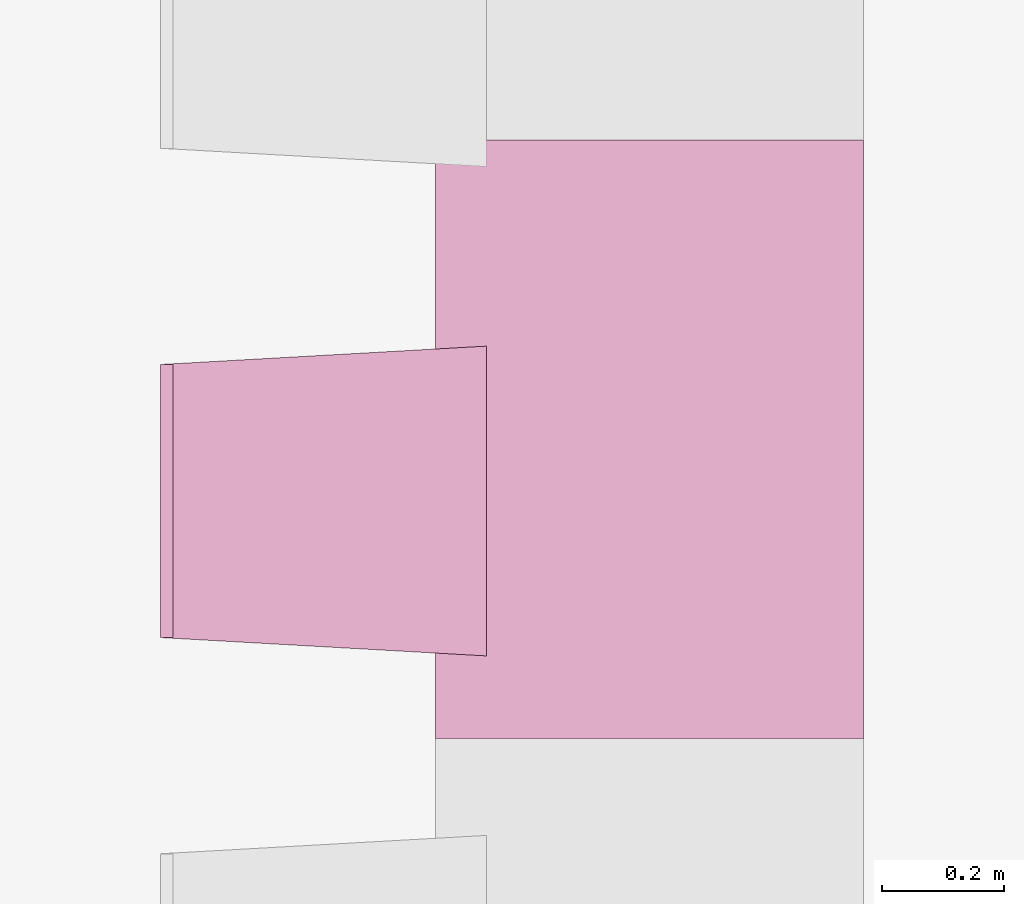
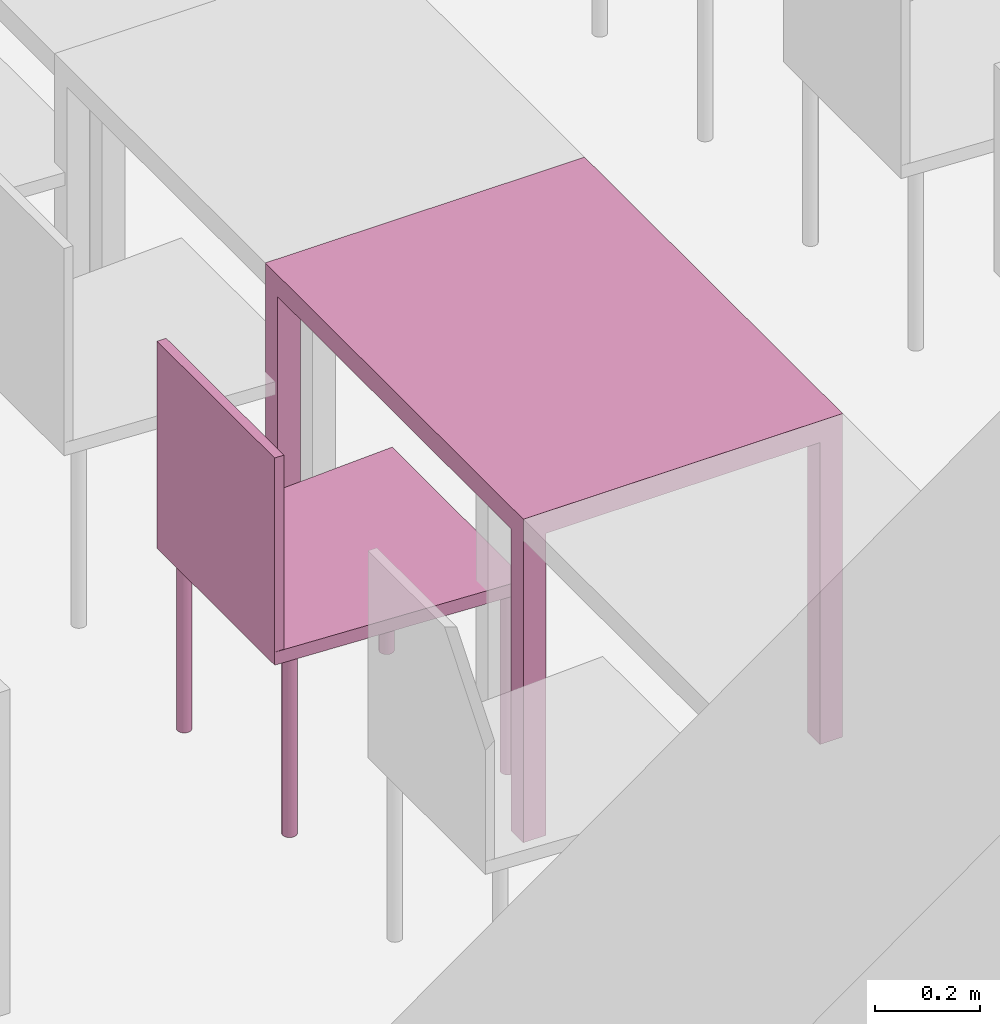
"""IFC4 building model written with IfcOpenShell, lengths in metres."""

from ifc_helpers import new_model, entity, si_unit, converted_unit, derived_unit, frame, origin, place, context, subcontext, project, spatial, faceted_brep, element, save


model = new_model("IFC4")

# Units and contexts
model_context = context("Model", 3, precision=1e-05, world=origin())
body_context = subcontext(model_context, "Body", "Model", "MODEL_VIEW")
ifc_project = project(units=[si_unit("LENGTHUNIT", "METRE"), si_unit("AREAUNIT", "SQUARE_METRE"), si_unit("VOLUMEUNIT", "CUBIC_METRE"), si_unit("MASSUNIT", "GRAM", prefix="KILO"), converted_unit("PLANEANGLEUNIT", "DEGREE", entity("IfcPlaneAngleMeasure", 0.0174532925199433), si_unit("PLANEANGLEUNIT", "RADIAN"), dimensions=[0, 0, 0, 0, 0, 0, 0]), derived_unit("THERMALTRANSMITTANCEUNIT", [(si_unit("POWERUNIT", "WATT"), 1), (si_unit("THERMODYNAMICTEMPERATUREUNIT", "KELVIN"), -1), (si_unit("LENGTHUNIT", "METRE"), -2)]), derived_unit("VOLUMETRICFLOWRATEUNIT", [(si_unit("LENGTHUNIT", "METRE"), 3), (converted_unit("TIMEUNIT", "hour", entity("IfcTimeMeasure", 3600.0), si_unit("TIMEUNIT", "SECOND"), dimensions=[0, 0, 1, 0, 0, 0, 0]), -1), (si_unit("LENGTHUNIT", "METRE"), -1)])], contexts=[model_context])

# Building, storeys
building_placement = place(None, origin())
building = spatial("IfcBuilding", under=ifc_project, at=building_placement, Name="HABITATGE PLURIFAMILIAR", CompositionType="ELEMENT")
storey_1_placement = place(building_placement, frame((0.0, 0.0, 3.35)))
storey_1 = spatial("IfcBuildingStorey", under=building, at=storey_1_placement, Name="PLANTA  ALTELL", CompositionType="ELEMENT", Elevation=3.35)
storey_2_placement = place(storey_1_placement, origin())
storey_2 = spatial("IfcBuildingStorey", under=storey_1, at=storey_2_placement, Name="NOU", CompositionType="PARTIAL")

# Furniture
furniture_1_placement = place(storey_2_placement, frame((412.336020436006, 14.0434480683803, 0.0)))
element("IfcFurniture", 1, at=furniture_1_placement, inside=storey_2, Name="Taula 80X70_PA", context=body_context, shape_type="Brep", body=[
    faceted_brep([(0.0, 0.0464285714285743, 0.0), (0.0, 0.0, 0.0), (0.0500000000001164, 0.0, 0.0), (0.0500000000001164, 0.0464285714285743, 0.0), (0.0500000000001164, 0.0464285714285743, 0.7), (0.0500000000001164, 0.0, 0.7), (0.0, 0.0, 0.7), (0.0, 0.0464285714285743, 0.7)], [[[0, 1, 2, 3]], [[4, 5, 6, 7]], [[3, 4, 7, 0]], [[2, 5, 4, 3]], [[1, 6, 5, 2]], [[0, 7, 6, 1]]], orient=[[False], [False], [False], [False], [False], [False]]),
    faceted_brep([(0.0, 0.98, 0.7), (0.0, 0.0, 0.7), (0.700069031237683, 0.0, 0.7), (0.700069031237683, 0.98, 0.7), (0.700069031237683, 0.98, 0.75), (0.700069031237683, 0.0, 0.75), (0.0, 0.0, 0.75), (0.0, 0.98, 0.75)], [[[0, 1, 2, 3]], [[4, 5, 6, 7]], [[3, 4, 7, 0]], [[2, 5, 4, 3]], [[1, 6, 5, 2]], [[0, 7, 6, 1]]], orient=[[False], [False], [False], [False], [False], [False]]),
    faceted_brep([(0.0, 0.980000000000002, 0.0), (0.0, 0.933571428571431, 0.0), (0.05, 0.933571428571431, 0.0), (0.05, 0.980000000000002, 0.0), (0.05, 0.980000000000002, 0.7), (0.05, 0.933571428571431, 0.7), (0.0, 0.933571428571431, 0.7), (0.0, 0.980000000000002, 0.7)], [[[0, 1, 2, 3]], [[4, 5, 6, 7]], [[3, 4, 7, 0]], [[2, 5, 4, 3]], [[1, 6, 5, 2]], [[0, 7, 6, 1]]], orient=[[False], [False], [False], [False], [False], [False]]),
    faceted_brep([(0.650069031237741, 0.98, 0.0), (0.650069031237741, 0.933571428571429, 0.0), (0.700069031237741, 0.933571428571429, 0.0), (0.700069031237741, 0.98, 0.0), (0.700069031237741, 0.98, 0.7), (0.700069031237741, 0.933571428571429, 0.7), (0.650069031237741, 0.933571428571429, 0.7), (0.650069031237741, 0.98, 0.7)], [[[0, 1, 2, 3]], [[4, 5, 6, 7]], [[3, 4, 7, 0]], [[2, 5, 4, 3]], [[1, 6, 5, 2]], [[0, 7, 6, 1]]], orient=[[False], [False], [False], [False], [False], [False]]),
    faceted_brep([(0.650069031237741, 0.0464285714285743, 0.0), (0.650069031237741, 0.0, 0.0), (0.700069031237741, 0.0, 0.0), (0.700069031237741, 0.0464285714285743, 0.0), (0.700069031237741, 0.0464285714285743, 0.7), (0.700069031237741, 0.0, 0.7), (0.650069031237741, 0.0, 0.7), (0.650069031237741, 0.0464285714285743, 0.7)], [[[0, 1, 2, 3]], [[4, 5, 6, 7]], [[3, 4, 7, 0]], [[2, 5, 4, 3]], [[1, 6, 5, 2]], [[0, 7, 6, 1]]], orient=[[False], [False], [False], [False], [False], [False]]),
])
furniture_2_placement = place(storey_2_placement, frame((411.886879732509, 14.1796818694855, 0.0499839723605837)))
element("IfcFurniture", 2, at=furniture_2_placement, inside=storey_2, Name="Cadira confident_PA", context=body_context, shape_type="Brep", body=[
    faceted_brep([(0.507575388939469, 0.0391636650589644, 0.0), (0.504980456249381, 0.0389479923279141, 0.0), (0.502462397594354, 0.0382849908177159, 0.0), (0.50009772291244, 0.0371948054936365, 0.0), (0.497958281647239, 0.0357105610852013, 0.0), (0.496109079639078, 0.0338773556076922, 0.0), (0.494606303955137, 0.0317508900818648, 0.0), (0.493495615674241, 0.0293957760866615, 0.0), (0.492810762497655, 0.0268835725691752, 0.0), (0.492572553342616, 0.0242906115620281, 0.0), (0.492788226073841, 0.0216956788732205, 0.0), (0.493451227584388, 0.019177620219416, 0.0), (0.494541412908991, 0.0168129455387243, 0.0), (0.496025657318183, 0.0146735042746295, 0.0), (0.497858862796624, 0.0128243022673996, 0.0), (0.499985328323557, 0.0113215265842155, 0.0), (0.502340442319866, 0.0102108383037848, 0.0), (0.504852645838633, 0.00952598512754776, 0.0), (0.507445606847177, 0.00928777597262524, 0.0), (0.510040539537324, 0.00950344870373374, 0.0), (0.512558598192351, 0.010166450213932, 0.0), (0.514923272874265, 0.0112566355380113, 0.0), (0.517062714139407, 0.0127408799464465, 0.0), (0.518911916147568, 0.0145740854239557, 0.0), (0.520414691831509, 0.0167005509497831, 0.0), (0.521525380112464, 0.0190556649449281, 0.0), (0.52221023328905, 0.0215678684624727, 0.0), (0.522448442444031, 0.024160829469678, 0.0), (0.522232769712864, 0.0267557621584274, 0.0), (0.521569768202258, 0.0292738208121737, 0.0), (0.520479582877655, 0.0316384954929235, 0.0), (0.518995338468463, 0.0337779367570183, 0.0), (0.517162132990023, 0.0356271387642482, 0.0), (0.515035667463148, 0.0371299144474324, 0.0), (0.51268055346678, 0.038240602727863, 0.0), (0.510168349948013, 0.0389254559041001, 0.0), (0.507575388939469, 0.0391636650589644, 0.448281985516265), (0.510168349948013, 0.0389254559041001, 0.448281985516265), (0.51268055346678, 0.038240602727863, 0.448281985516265), (0.515035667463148, 0.0371299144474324, 0.448281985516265), (0.517162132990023, 0.0356271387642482, 0.448281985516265), (0.518995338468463, 0.0337779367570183, 0.448281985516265), (0.520479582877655, 0.0316384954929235, 0.448281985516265), (0.521569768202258, 0.0292738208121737, 0.448281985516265), (0.522232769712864, 0.0267557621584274, 0.448281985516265), (0.522448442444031, 0.024160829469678, 0.448281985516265), (0.52221023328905, 0.0215678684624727, 0.448281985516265), (0.521525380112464, 0.0190556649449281, 0.448281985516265), (0.520414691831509, 0.0167005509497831, 0.448281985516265), (0.518911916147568, 0.0145740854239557, 0.448281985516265), (0.517062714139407, 0.0127408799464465, 0.448281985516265), (0.514923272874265, 0.0112566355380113, 0.448281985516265), (0.512558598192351, 0.010166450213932, 0.448281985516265), (0.510040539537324, 0.00950344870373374, 0.448281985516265), (0.507445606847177, 0.00928777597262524, 0.448281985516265), (0.504852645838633, 0.00952598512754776, 0.448281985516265), (0.502340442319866, 0.0102108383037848, 0.448281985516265), (0.499985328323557, 0.0113215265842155, 0.448281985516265), (0.497858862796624, 0.0128243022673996, 0.448281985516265), (0.496025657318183, 0.0146735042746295, 0.448281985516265), (0.494541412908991, 0.0168129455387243, 0.448281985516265), (0.493451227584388, 0.019177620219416, 0.448281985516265), (0.492788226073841, 0.0216956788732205, 0.448281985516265), (0.492572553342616, 0.0242906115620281, 0.448281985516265), (0.492810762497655, 0.0268835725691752, 0.448281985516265), (0.493495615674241, 0.0293957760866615, 0.448281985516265), (0.494606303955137, 0.0317508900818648, 0.448281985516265), (0.496109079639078, 0.0338773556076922, 0.448281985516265), (0.497958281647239, 0.0357105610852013, 0.448281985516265), (0.50009772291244, 0.0371948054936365, 0.448281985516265), (0.502462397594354, 0.0382849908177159, 0.448281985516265), (0.504980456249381, 0.0389479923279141, 0.448281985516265)], [[[0, 1, 2, 3, 4, 5, 6, 7, 8, 9, 10, 11, 12, 13, 14, 15, 16, 17, 18, 19, 20, 21, 22, 23, 24, 25, 26, 27, 28, 29, 30, 31, 32, 33, 34, 35]], [[36, 37, 38, 39, 40, 41, 42, 43, 44, 45, 46, 47, 48, 49, 50, 51, 52, 53, 54, 55, 56, 57, 58, 59, 60, 61, 62, 63, 64, 65, 66, 67, 68, 69, 70, 71]], [[1, 0, 36, 71]], [[2, 1, 71, 70]], [[3, 2, 70, 69]], [[4, 3, 69, 68]], [[5, 4, 68, 67]], [[6, 5, 67, 66]], [[7, 6, 66, 65]], [[8, 7, 65, 64]], [[9, 8, 64, 63]], [[10, 9, 63, 62]], [[11, 10, 62, 61]], [[12, 11, 61, 60]], [[13, 12, 60, 59]], [[14, 13, 59, 58]], [[15, 14, 58, 57]], [[16, 15, 57, 56]], [[17, 16, 56, 55]], [[18, 17, 55, 54]], [[19, 18, 54, 53]], [[20, 19, 53, 52]], [[21, 20, 52, 51]], [[22, 21, 51, 50]], [[23, 22, 50, 49]], [[24, 23, 49, 48]], [[25, 24, 48, 47]], [[26, 25, 47, 46]], [[27, 26, 46, 45]], [[28, 27, 45, 44]], [[29, 28, 44, 43]], [[30, 29, 43, 42]], [[31, 30, 42, 41]], [[32, 31, 41, 40]], [[33, 32, 40, 39]], [[34, 33, 39, 38]], [[35, 34, 38, 37]], [[0, 35, 37, 36]]], orient=[[False], [False], [False], [False], [False], [False], [False], [False], [False], [False], [False], [False], [False], [False], [False], [False], [False], [False], [False], [False], [False], [False], [False], [False], [False], [False], [False], [False], [False], [False], [False], [False], [False], [False], [False], [False], [False], [False]]),
    faceted_brep([(0.0451683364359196, 0.0668016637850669, 0.0), (0.0425734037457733, 0.0665859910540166, 0.0), (0.0400553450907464, 0.065922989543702, 0.0), (0.0376906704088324, 0.0648328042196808, 0.0), (0.0355512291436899, 0.0633485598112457, 0.0), (0.0337020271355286, 0.0615153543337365, 0.0), (0.0321992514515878, 0.0593888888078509, 0.0), (0.0310885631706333, 0.057033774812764, 0.0), (0.0304037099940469, 0.0545215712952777, 0.0), (0.030165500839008, 0.0519286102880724, 0.0), (0.0303811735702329, 0.0493336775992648, 0.0), (0.0310441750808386, 0.0468156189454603, 0.0), (0.0321343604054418, 0.0444509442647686, 0.0), (0.0336186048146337, 0.0423115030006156, 0.0), (0.0354518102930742, 0.0404623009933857, 0.0), (0.0375782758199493, 0.0389595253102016, 0.0), (0.0399333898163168, 0.0378488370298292, 0.0), (0.0424455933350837, 0.0371639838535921, 0.0), (0.0450385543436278, 0.0369257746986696, 0.0), (0.0476334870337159, 0.0371414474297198, 0.0), (0.0501515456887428, 0.0378044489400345, 0.0), (0.0525162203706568, 0.0388946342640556, 0.0), (0.0546556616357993, 0.0403788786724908, 0.0), (0.0565048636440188, 0.0422120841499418, 0.0), (0.0580076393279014, 0.0443385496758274, 0.0), (0.0591183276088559, 0.0466936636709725, 0.0), (0.0598031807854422, 0.0492058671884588, 0.0), (0.0600413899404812, 0.0517988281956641, 0.0), (0.0598257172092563, 0.0543937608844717, 0.0), (0.0591627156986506, 0.0569118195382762, 0.0), (0.0580725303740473, 0.0592764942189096, 0.0), (0.0565882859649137, 0.0614159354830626, 0.0), (0.0547550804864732, 0.0632651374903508, 0.0), (0.0526286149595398, 0.0647679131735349, 0.0), (0.0502735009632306, 0.0658786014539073, 0.0), (0.0477612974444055, 0.0665634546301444, 0.0), (0.0451683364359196, 0.0668016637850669, 0.448281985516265), (0.0477612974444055, 0.0665634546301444, 0.448281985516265), (0.0502735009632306, 0.0658786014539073, 0.448281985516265), (0.0526286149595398, 0.0647679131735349, 0.448281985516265), (0.0547550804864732, 0.0632651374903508, 0.448281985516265), (0.0565882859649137, 0.0614159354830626, 0.448281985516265), (0.0580725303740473, 0.0592764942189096, 0.448281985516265), (0.0591627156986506, 0.0569118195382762, 0.448281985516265), (0.0598257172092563, 0.0543937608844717, 0.448281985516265), (0.0600413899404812, 0.0517988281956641, 0.448281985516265), (0.0598031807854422, 0.0492058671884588, 0.448281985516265), (0.0591183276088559, 0.0466936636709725, 0.448281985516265), (0.0580076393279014, 0.0443385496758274, 0.448281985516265), (0.0565048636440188, 0.0422120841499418, 0.448281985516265), (0.0546556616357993, 0.0403788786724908, 0.448281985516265), (0.0525162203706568, 0.0388946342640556, 0.448281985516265), (0.0501515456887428, 0.0378044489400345, 0.448281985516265), (0.0476334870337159, 0.0371414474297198, 0.448281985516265), (0.0450385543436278, 0.0369257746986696, 0.448281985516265), (0.0424455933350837, 0.0371639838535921, 0.448281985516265), (0.0399333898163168, 0.0378488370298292, 0.448281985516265), (0.0375782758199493, 0.0389595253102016, 0.448281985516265), (0.0354518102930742, 0.0404623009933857, 0.448281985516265), (0.0336186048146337, 0.0423115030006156, 0.448281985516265), (0.0321343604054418, 0.0444509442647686, 0.448281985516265), (0.0310441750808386, 0.0468156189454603, 0.448281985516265), (0.0303811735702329, 0.0493336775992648, 0.448281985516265), (0.030165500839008, 0.0519286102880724, 0.448281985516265), (0.0304037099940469, 0.0545215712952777, 0.448281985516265), (0.0310885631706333, 0.057033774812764, 0.448281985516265), (0.0321992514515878, 0.0593888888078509, 0.448281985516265), (0.0337020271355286, 0.0615153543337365, 0.448281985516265), (0.0355512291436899, 0.0633485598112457, 0.448281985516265), (0.0376906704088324, 0.0648328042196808, 0.448281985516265), (0.0400553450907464, 0.065922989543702, 0.448281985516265), (0.0425734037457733, 0.0665859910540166, 0.448281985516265)], [[[0, 1, 2, 3, 4, 5, 6, 7, 8, 9, 10, 11, 12, 13, 14, 15, 16, 17, 18, 19, 20, 21, 22, 23, 24, 25, 26, 27, 28, 29, 30, 31, 32, 33, 34, 35]], [[36, 37, 38, 39, 40, 41, 42, 43, 44, 45, 46, 47, 48, 49, 50, 51, 52, 53, 54, 55, 56, 57, 58, 59, 60, 61, 62, 63, 64, 65, 66, 67, 68, 69, 70, 71]], [[1, 0, 36, 71]], [[2, 1, 71, 70]], [[3, 2, 70, 69]], [[4, 3, 69, 68]], [[5, 4, 68, 67]], [[6, 5, 67, 66]], [[7, 6, 66, 65]], [[8, 7, 65, 64]], [[9, 8, 64, 63]], [[10, 9, 63, 62]], [[11, 10, 62, 61]], [[12, 11, 61, 60]], [[13, 12, 60, 59]], [[14, 13, 59, 58]], [[15, 14, 58, 57]], [[16, 15, 57, 56]], [[17, 16, 56, 55]], [[18, 17, 55, 54]], [[19, 18, 54, 53]], [[20, 19, 53, 52]], [[21, 20, 52, 51]], [[22, 21, 51, 50]], [[23, 22, 50, 49]], [[24, 23, 49, 48]], [[25, 24, 48, 47]], [[26, 25, 47, 46]], [[27, 26, 46, 45]], [[28, 27, 45, 44]], [[29, 28, 44, 43]], [[30, 29, 43, 42]], [[31, 30, 42, 41]], [[32, 31, 41, 40]], [[33, 32, 40, 39]], [[34, 33, 39, 38]], [[35, 34, 38, 37]], [[0, 35, 37, 36]]], orient=[[False], [False], [False], [False], [False], [False], [False], [False], [False], [False], [False], [False], [False], [False], [False], [False], [False], [False], [False], [False], [False], [False], [False], [False], [False], [False], [False], [False], [False], [False], [False], [False], [False], [False], [False], [False], [False], [False]]),
    faceted_brep([(0.50757538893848, 0.499163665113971, 0.0), (0.504980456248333, 0.49894799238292, 0.0), (0.502462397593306, 0.498284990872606, 0.0), (0.500097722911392, 0.497194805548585, 0.0), (0.49795828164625, 0.495710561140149, 0.0), (0.496109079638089, 0.493877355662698, 0.0), (0.494606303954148, 0.491750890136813, 0.0), (0.493495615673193, 0.489395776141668, 0.0), (0.492810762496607, 0.486883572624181, 0.0), (0.492572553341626, 0.484290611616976, 0.0), (0.492788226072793, 0.481695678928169, 0.0), (0.493451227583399, 0.479177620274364, 0.0), (0.494541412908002, 0.476812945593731, 0.0), (0.496025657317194, 0.474673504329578, 0.0), (0.497858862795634, 0.472824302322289, 0.0), (0.499985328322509, 0.471321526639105, 0.0), (0.502340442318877, 0.470210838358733, 0.0), (0.504852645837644, 0.469525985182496, 0.0), (0.507445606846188, 0.469287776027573, 0.0), (0.510040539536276, 0.469503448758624, 0.0), (0.512558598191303, 0.470166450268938, 0.0), (0.514923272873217, 0.471256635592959, 0.0), (0.517062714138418, 0.472740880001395, 0.0), (0.518911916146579, 0.474574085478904, 0.0), (0.52041469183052, 0.476700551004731, 0.0), (0.521525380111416, 0.479055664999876, 0.0), (0.522210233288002, 0.481567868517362, 0.0), (0.522448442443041, 0.484160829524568, 0.0), (0.522232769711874, 0.486755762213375, 0.0), (0.521569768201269, 0.48927382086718, 0.0), (0.520479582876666, 0.491638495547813, 0.0), (0.518995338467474, 0.493777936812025, 0.0), (0.517162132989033, 0.495627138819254, 0.0), (0.515035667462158, 0.497129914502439, 0.0), (0.512680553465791, 0.498240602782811, 0.0), (0.510168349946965, 0.498925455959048, 0.0), (0.50757538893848, 0.499163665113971, 0.448281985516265), (0.510168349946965, 0.498925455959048, 0.448281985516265), (0.512680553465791, 0.498240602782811, 0.448281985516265), (0.515035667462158, 0.497129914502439, 0.448281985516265), (0.517162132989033, 0.495627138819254, 0.448281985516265), (0.518995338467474, 0.493777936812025, 0.448281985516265), (0.520479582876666, 0.491638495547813, 0.448281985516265), (0.521569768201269, 0.48927382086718, 0.448281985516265), (0.522232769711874, 0.486755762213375, 0.448281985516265), (0.522448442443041, 0.484160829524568, 0.448281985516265), (0.522210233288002, 0.481567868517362, 0.448281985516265), (0.521525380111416, 0.479055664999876, 0.448281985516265), (0.52041469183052, 0.476700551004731, 0.448281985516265), (0.518911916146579, 0.474574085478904, 0.448281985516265), (0.517062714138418, 0.472740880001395, 0.448281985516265), (0.514923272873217, 0.471256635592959, 0.448281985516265), (0.512558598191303, 0.470166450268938, 0.448281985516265), (0.510040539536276, 0.469503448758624, 0.448281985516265), (0.507445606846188, 0.469287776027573, 0.448281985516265), (0.504852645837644, 0.469525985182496, 0.448281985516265), (0.502340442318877, 0.470210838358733, 0.448281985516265), (0.499985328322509, 0.471321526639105, 0.448281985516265), (0.497858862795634, 0.472824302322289, 0.448281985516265), (0.496025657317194, 0.474673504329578, 0.448281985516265), (0.494541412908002, 0.476812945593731, 0.448281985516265), (0.493451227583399, 0.479177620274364, 0.448281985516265), (0.492788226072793, 0.481695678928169, 0.448281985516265), (0.492572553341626, 0.484290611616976, 0.448281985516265), (0.492810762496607, 0.486883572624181, 0.448281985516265), (0.493495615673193, 0.489395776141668, 0.448281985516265), (0.494606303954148, 0.491750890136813, 0.448281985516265), (0.496109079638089, 0.493877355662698, 0.448281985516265), (0.49795828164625, 0.495710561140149, 0.448281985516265), (0.500097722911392, 0.497194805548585, 0.448281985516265), (0.502462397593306, 0.498284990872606, 0.448281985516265), (0.504980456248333, 0.49894799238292, 0.448281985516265)], [[[0, 1, 2, 3, 4, 5, 6, 7, 8, 9, 10, 11, 12, 13, 14, 15, 16, 17, 18, 19, 20, 21, 22, 23, 24, 25, 26, 27, 28, 29, 30, 31, 32, 33, 34, 35]], [[36, 37, 38, 39, 40, 41, 42, 43, 44, 45, 46, 47, 48, 49, 50, 51, 52, 53, 54, 55, 56, 57, 58, 59, 60, 61, 62, 63, 64, 65, 66, 67, 68, 69, 70, 71]], [[1, 0, 36, 71]], [[2, 1, 71, 70]], [[3, 2, 70, 69]], [[4, 3, 69, 68]], [[5, 4, 68, 67]], [[6, 5, 67, 66]], [[7, 6, 66, 65]], [[8, 7, 65, 64]], [[9, 8, 64, 63]], [[10, 9, 63, 62]], [[11, 10, 62, 61]], [[12, 11, 61, 60]], [[13, 12, 60, 59]], [[14, 13, 59, 58]], [[15, 14, 58, 57]], [[16, 15, 57, 56]], [[17, 16, 56, 55]], [[18, 17, 55, 54]], [[19, 18, 54, 53]], [[20, 19, 53, 52]], [[21, 20, 52, 51]], [[22, 21, 51, 50]], [[23, 22, 50, 49]], [[24, 23, 49, 48]], [[25, 24, 48, 47]], [[26, 25, 47, 46]], [[27, 26, 46, 45]], [[28, 27, 45, 44]], [[29, 28, 44, 43]], [[30, 29, 43, 42]], [[31, 30, 42, 41]], [[32, 31, 41, 40]], [[33, 32, 40, 39]], [[34, 33, 39, 38]], [[35, 34, 38, 37]], [[0, 35, 37, 36]]], orient=[[False], [False], [False], [False], [False], [False], [False], [False], [False], [False], [False], [False], [False], [False], [False], [False], [False], [False], [False], [False], [False], [False], [False], [False], [False], [False], [False], [False], [False], [False], [False], [False], [False], [False], [False], [False], [False], [False]]),
    faceted_brep([(0.0451683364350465, 0.466801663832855, 0.0), (0.0425734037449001, 0.466585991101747, 0.0), (0.0400553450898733, 0.46592298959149, 0.0), (0.0376906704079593, 0.464832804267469, 0.0), (0.0355512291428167, 0.463348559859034, 0.0), (0.0337020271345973, 0.461515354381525, 0.0), (0.0321992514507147, 0.459388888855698, 0.0), (0.0310885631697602, 0.457033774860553, 0.0), (0.0304037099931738, 0.454521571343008, 0.0), (0.0301655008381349, 0.451928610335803, 0.0), (0.0303811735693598, 0.449333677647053, 0.0), (0.0310441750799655, 0.446815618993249, 0.0), (0.0321343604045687, 0.444450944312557, 0.0), (0.0336186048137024, 0.442311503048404, 0.0), (0.0354518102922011, 0.440462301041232, 0.0), (0.0375782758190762, 0.43895952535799, 0.0), (0.0399333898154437, 0.437848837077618, 0.0), (0.0424455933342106, 0.437163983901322, 0.0), (0.0450385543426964, 0.436925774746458, 0.0), (0.0476334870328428, 0.437141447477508, 0.0), (0.0501515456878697, 0.437804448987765, 0.0), (0.0525162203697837, 0.438894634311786, 0.0), (0.0546556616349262, 0.440378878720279, 0.0), (0.0565048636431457, 0.44221208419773, 0.0), (0.0580076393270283, 0.444338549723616, 0.0), (0.0591183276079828, 0.446693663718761, 0.0), (0.0598031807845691, 0.449205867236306, 0.0), (0.0600413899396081, 0.451798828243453, 0.0), (0.0598257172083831, 0.45439376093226, 0.0), (0.0591627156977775, 0.456911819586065, 0.0), (0.0580725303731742, 0.459276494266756, 0.0), (0.0565882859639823, 0.461415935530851, 0.0), (0.0547550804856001, 0.463265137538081, 0.0), (0.0526286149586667, 0.464767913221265, 0.0), (0.0502735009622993, 0.465878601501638, 0.0), (0.0477612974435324, 0.466563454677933, 0.0), (0.0451683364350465, 0.466801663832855, 0.448281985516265), (0.0477612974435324, 0.466563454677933, 0.448281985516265), (0.0502735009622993, 0.465878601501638, 0.448281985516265), (0.0526286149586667, 0.464767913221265, 0.448281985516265), (0.0547550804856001, 0.463265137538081, 0.448281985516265), (0.0565882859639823, 0.461415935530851, 0.448281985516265), (0.0580725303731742, 0.459276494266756, 0.448281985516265), (0.0591627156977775, 0.456911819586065, 0.448281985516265), (0.0598257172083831, 0.45439376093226, 0.448281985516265), (0.0600413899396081, 0.451798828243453, 0.448281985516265), (0.0598031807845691, 0.449205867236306, 0.448281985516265), (0.0591183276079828, 0.446693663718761, 0.448281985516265), (0.0580076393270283, 0.444338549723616, 0.448281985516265), (0.0565048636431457, 0.44221208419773, 0.448281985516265), (0.0546556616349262, 0.440378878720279, 0.448281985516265), (0.0525162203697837, 0.438894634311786, 0.448281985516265), (0.0501515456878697, 0.437804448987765, 0.448281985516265), (0.0476334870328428, 0.437141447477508, 0.448281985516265), (0.0450385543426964, 0.436925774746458, 0.448281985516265), (0.0424455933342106, 0.437163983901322, 0.448281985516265), (0.0399333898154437, 0.437848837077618, 0.448281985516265), (0.0375782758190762, 0.43895952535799, 0.448281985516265), (0.0354518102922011, 0.440462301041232, 0.448281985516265), (0.0336186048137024, 0.442311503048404, 0.448281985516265), (0.0321343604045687, 0.444450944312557, 0.448281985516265), (0.0310441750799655, 0.446815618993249, 0.448281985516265), (0.0303811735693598, 0.449333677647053, 0.448281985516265), (0.0301655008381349, 0.451928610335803, 0.448281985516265), (0.0304037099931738, 0.454521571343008, 0.448281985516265), (0.0310885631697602, 0.457033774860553, 0.448281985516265), (0.0321992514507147, 0.459388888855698, 0.448281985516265), (0.0337020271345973, 0.461515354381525, 0.448281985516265), (0.0355512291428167, 0.463348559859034, 0.448281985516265), (0.0376906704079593, 0.464832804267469, 0.448281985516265), (0.0400553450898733, 0.46592298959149, 0.448281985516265), (0.0425734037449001, 0.466585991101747, 0.448281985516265)], [[[0, 1, 2, 3, 4, 5, 6, 7, 8, 9, 10, 11, 12, 13, 14, 15, 16, 17, 18, 19, 20, 21, 22, 23, 24, 25, 26, 27, 28, 29, 30, 31, 32, 33, 34, 35]], [[36, 37, 38, 39, 40, 41, 42, 43, 44, 45, 46, 47, 48, 49, 50, 51, 52, 53, 54, 55, 56, 57, 58, 59, 60, 61, 62, 63, 64, 65, 66, 67, 68, 69, 70, 71]], [[1, 0, 36, 71]], [[2, 1, 71, 70]], [[3, 2, 70, 69]], [[4, 3, 69, 68]], [[5, 4, 68, 67]], [[6, 5, 67, 66]], [[7, 6, 66, 65]], [[8, 7, 65, 64]], [[9, 8, 64, 63]], [[10, 9, 63, 62]], [[11, 10, 62, 61]], [[12, 11, 61, 60]], [[13, 12, 60, 59]], [[14, 13, 59, 58]], [[15, 14, 58, 57]], [[16, 15, 57, 56]], [[17, 16, 56, 55]], [[18, 17, 55, 54]], [[19, 18, 54, 53]], [[20, 19, 53, 52]], [[21, 20, 52, 51]], [[22, 21, 51, 50]], [[23, 22, 50, 49]], [[24, 23, 49, 48]], [[25, 24, 48, 47]], [[26, 25, 47, 46]], [[27, 26, 46, 45]], [[28, 27, 45, 44]], [[29, 28, 44, 43]], [[30, 29, 43, 42]], [[31, 30, 42, 41]], [[32, 31, 41, 40]], [[33, 32, 40, 39]], [[34, 33, 39, 38]], [[35, 34, 38, 37]], [[0, 35, 37, 36]]], orient=[[False], [False], [False], [False], [False], [False], [False], [False], [False], [False], [False], [False], [False], [False], [False], [False], [False], [False], [False], [False], [False], [False], [False], [False], [False], [False], [False], [False], [False], [False], [False], [False], [False], [False], [False], [False], [False], [False]]),
    faceted_brep([(0.0, 0.476514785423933, 0.418281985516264), (0.0, 0.0300000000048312, 0.418281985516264), (0.532607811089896, 0.0, 0.418281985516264), (0.53260781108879, 0.506514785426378, 0.418281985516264), (0.53260781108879, 0.506514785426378, 0.448281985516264), (0.532607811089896, 0.0, 0.448281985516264), (0.0, 0.0300000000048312, 0.448281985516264), (0.0, 0.476514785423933, 0.448281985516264)], [[[0, 1, 2, 3]], [[4, 5, 6, 7]], [[3, 4, 7, 0]], [[2, 5, 4, 3]], [[1, 6, 5, 2]], [[0, 7, 6, 1]]], orient=[[False], [False], [False], [False], [False], [False]]),
    faceted_brep([(0.0200000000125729, 0.476514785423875, 0.448281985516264), (0.0, 0.476514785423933, 0.448281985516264), (0.0, 0.0300000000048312, 0.448281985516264), (0.0200000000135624, 0.0300000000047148, 0.448281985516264), (0.0200000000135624, 0.0300000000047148, 0.898281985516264), (0.0, 0.0300000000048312, 0.898281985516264), (0.0, 0.476514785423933, 0.898281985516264), (0.0200000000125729, 0.476514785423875, 0.898281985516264)], [[[0, 1, 2, 3]], [[4, 5, 6, 7]], [[3, 4, 7, 0]], [[2, 5, 4, 3]], [[1, 6, 5, 2]], [[0, 7, 6, 1]]], orient=[[False], [False], [False], [False], [False], [False]]),
])

save(model, "model.ifc")
